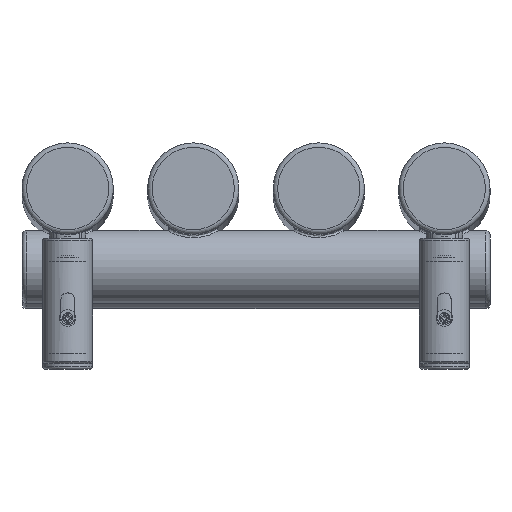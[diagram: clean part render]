
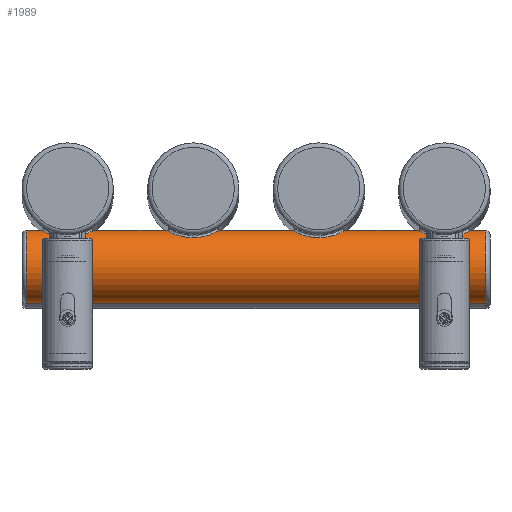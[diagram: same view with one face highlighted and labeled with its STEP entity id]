
A CAD part, top view. The second image highlights one B-rep face of the part: STEP entity #1989.
In plain terms, the highlighted cylindrical face has radius 16 mm (diameter 32 mm), a full revolution.
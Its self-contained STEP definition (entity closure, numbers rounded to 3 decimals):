
#170=FACE_BOUND('',#518,.T.);
#171=FACE_BOUND('',#519,.T.);
#172=FACE_BOUND('',#520,.T.);
#173=FACE_BOUND('',#521,.T.);
#193=LINE('',#4326,#266);
#266=VECTOR('',#2499,16.);
#339=CYLINDRICAL_SURFACE('',#2178,16.);
#374=FACE_OUTER_BOUND('',#517,.T.);
#517=EDGE_LOOP('',(#1425,#1426,#1427,#1428));
#518=EDGE_LOOP('',(#1429));
#519=EDGE_LOOP('',(#1430));
#520=EDGE_LOOP('',(#1431));
#521=EDGE_LOOP('',(#1432));
#668=B_SPLINE_CURVE_WITH_KNOTS('',3,(#4304,#4305,#4306,#4307,#4308,#4309,
#4310,#4311,#4312,#4313,#4314,#4315,#4316,#4317,#4318,#4319,#4320,#4321),
 .UNSPECIFIED.,.T.,.F.,(4,1,1,1,1,1,1,1,1,1,1,1,1,1,1,4),(0.,0.367,
0.733,1.1,1.466,1.955,2.199,
2.444,2.933,3.177,3.421,3.666,
3.91,4.399,4.765,5.132),
 .UNSPECIFIED.);
#669=B_SPLINE_CURVE_WITH_KNOTS('',3,(#4329,#4330,#4331,#4332,#4333,#4334,
#4335,#4336,#4337,#4338,#4339,#4340,#4341,#4342,#4343,#4344,#4345,#4346),
 .UNSPECIFIED.,.T.,.F.,(4,1,1,1,1,1,1,1,1,1,1,1,1,1,1,4),(0.,0.367,
0.733,1.1,1.466,1.955,2.199,
2.444,2.933,3.177,3.421,3.666,
3.91,4.399,4.765,5.132),
 .UNSPECIFIED.);
#670=B_SPLINE_CURVE_WITH_KNOTS('',3,(#4348,#4349,#4350,#4351,#4352,#4353,
#4354,#4355,#4356,#4357,#4358,#4359,#4360,#4361,#4362,#4363,#4364,#4365,
#4366,#4367,#4368,#4369,#4370,#4371,#4372),.UNSPECIFIED.,.T.,.F.,(4,1,1,
1,1,1,1,1,1,1,1,1,1,1,1,1,1,1,1,1,1,1,4),(0.,0.367,0.733,
1.1,1.283,1.466,1.711,1.955,
2.077,2.199,2.444,2.933,3.177,
3.421,3.666,3.788,3.91,4.154,
4.277,4.338,4.399,4.765,5.132),
 .UNSPECIFIED.);
#671=B_SPLINE_CURVE_WITH_KNOTS('',3,(#4374,#4375,#4376,#4377,#4378,#4379,
#4380,#4381,#4382,#4383,#4384,#4385,#4386,#4387,#4388,#4389,#4390,#4391),
 .UNSPECIFIED.,.T.,.F.,(4,1,1,1,1,1,1,1,1,1,1,1,1,1,1,4),(0.,0.367,
0.733,1.1,1.466,1.955,2.199,
2.444,2.933,3.177,3.421,3.666,
3.91,4.399,4.765,5.132),
 .UNSPECIFIED.);
#724=CIRCLE('',#2179,16.);
#725=CIRCLE('',#2180,16.);
#886=VERTEX_POINT('',#4302);
#887=VERTEX_POINT('',#4323);
#888=VERTEX_POINT('',#4325);
#889=VERTEX_POINT('',#4328);
#890=VERTEX_POINT('',#4347);
#891=VERTEX_POINT('',#4373);
#1102=EDGE_CURVE('',#886,#886,#668,.T.);
#1103=EDGE_CURVE('',#887,#887,#724,.T.);
#1104=EDGE_CURVE('',#887,#888,#193,.T.);
#1105=EDGE_CURVE('',#888,#888,#725,.T.);
#1106=EDGE_CURVE('',#889,#889,#669,.T.);
#1107=EDGE_CURVE('',#890,#890,#670,.T.);
#1108=EDGE_CURVE('',#891,#891,#671,.T.);
#1425=ORIENTED_EDGE('',*,*,#1103,.F.);
#1426=ORIENTED_EDGE('',*,*,#1104,.T.);
#1427=ORIENTED_EDGE('',*,*,#1105,.F.);
#1428=ORIENTED_EDGE('',*,*,#1104,.F.);
#1429=ORIENTED_EDGE('',*,*,#1106,.F.);
#1430=ORIENTED_EDGE('',*,*,#1107,.F.);
#1431=ORIENTED_EDGE('',*,*,#1108,.F.);
#1432=ORIENTED_EDGE('',*,*,#1102,.F.);
#1989=ADVANCED_FACE('',(#374,#170,#171,#172,#173),#339,.T.);
#2178=AXIS2_PLACEMENT_3D('',#4322,#2495,#2496);
#2179=AXIS2_PLACEMENT_3D('',#4324,#2497,#2498);
#2180=AXIS2_PLACEMENT_3D('',#4327,#2500,#2501);
#2495=DIRECTION('center_axis',(-1.,0.,0.));
#2496=DIRECTION('ref_axis',(0.,0.,1.));
#2497=DIRECTION('center_axis',(-1.,0.,0.));
#2498=DIRECTION('ref_axis',(0.,0.,1.));
#2499=DIRECTION('',(1.,0.,0.));
#2500=DIRECTION('center_axis',(1.,0.,0.));
#2501=DIRECTION('ref_axis',(0.,0.,1.));
#4302=CARTESIAN_POINT('',(-165.,-21.257,1454.676));
#4304=CARTESIAN_POINT('Ctrl Pts',(-165.,-21.257,1454.676));
#4305=CARTESIAN_POINT('Ctrl Pts',(-163.333,-21.257,1454.676));
#4306=CARTESIAN_POINT('Ctrl Pts',(-159.998,-20.862,1454.186));
#4307=CARTESIAN_POINT('Ctrl Pts',(-155.822,-19.32,1451.732));
#4308=CARTESIAN_POINT('Ctrl Pts',(-153.543,-17.947,1447.499));
#4309=CARTESIAN_POINT('Ctrl Pts',(-153.525,-17.943,1441.936));
#4310=CARTESIAN_POINT('Ctrl Pts',(-156.229,-19.554,1437.874));
#4311=CARTESIAN_POINT('Ctrl Pts',(-160.077,-20.767,1435.98));
#4312=CARTESIAN_POINT('Ctrl Pts',(-164.395,-21.458,1435.071));
#4313=CARTESIAN_POINT('Ctrl Pts',(-168.972,-21.079,1435.505));
#4314=CARTESIAN_POINT('Ctrl Pts',(-172.797,-19.859,1437.413));
#4315=CARTESIAN_POINT('Ctrl Pts',(-174.989,-18.831,1439.665));
#4316=CARTESIAN_POINT('Ctrl Pts',(-176.247,-18.084,1442.577));
#4317=CARTESIAN_POINT('Ctrl Pts',(-176.602,-17.836,1446.907));
#4318=CARTESIAN_POINT('Ctrl Pts',(-174.645,-19.134,1451.468));
#4319=CARTESIAN_POINT('Ctrl Pts',(-169.999,-20.872,1454.179));
#4320=CARTESIAN_POINT('Ctrl Pts',(-166.667,-21.257,1454.676));
#4321=CARTESIAN_POINT('Ctrl Pts',(-165.,-21.257,1454.676));
#4322=CARTESIAN_POINT('Origin',(20.,-34.,1445.));
#4323=CARTESIAN_POINT('',(-183.,-34.,1429.));
#4324=CARTESIAN_POINT('Origin',(-183.,-34.,1445.));
#4325=CARTESIAN_POINT('',(18.,-34.,1429.));
#4326=CARTESIAN_POINT('',(20.,-34.,1429.));
#4327=CARTESIAN_POINT('Origin',(18.,-34.,1445.));
#4328=CARTESIAN_POINT('',(-110.,-21.257,1454.676));
#4329=CARTESIAN_POINT('Ctrl Pts',(-110.,-21.257,1454.676));
#4330=CARTESIAN_POINT('Ctrl Pts',(-108.333,-21.257,1454.676));
#4331=CARTESIAN_POINT('Ctrl Pts',(-104.998,-20.862,1454.186));
#4332=CARTESIAN_POINT('Ctrl Pts',(-100.822,-19.32,1451.732));
#4333=CARTESIAN_POINT('Ctrl Pts',(-98.543,-17.947,1447.499));
#4334=CARTESIAN_POINT('Ctrl Pts',(-98.525,-17.943,1441.936));
#4335=CARTESIAN_POINT('Ctrl Pts',(-101.229,-19.554,1437.874));
#4336=CARTESIAN_POINT('Ctrl Pts',(-105.077,-20.767,1435.98));
#4337=CARTESIAN_POINT('Ctrl Pts',(-109.395,-21.458,1435.071));
#4338=CARTESIAN_POINT('Ctrl Pts',(-113.972,-21.079,1435.505));
#4339=CARTESIAN_POINT('Ctrl Pts',(-117.798,-19.859,1437.413));
#4340=CARTESIAN_POINT('Ctrl Pts',(-119.989,-18.831,1439.665));
#4341=CARTESIAN_POINT('Ctrl Pts',(-121.247,-18.084,1442.577));
#4342=CARTESIAN_POINT('Ctrl Pts',(-121.602,-17.836,1446.907));
#4343=CARTESIAN_POINT('Ctrl Pts',(-119.645,-19.134,1451.468));
#4344=CARTESIAN_POINT('Ctrl Pts',(-114.999,-20.872,1454.179));
#4345=CARTESIAN_POINT('Ctrl Pts',(-111.667,-21.257,1454.676));
#4346=CARTESIAN_POINT('Ctrl Pts',(-110.,-21.257,1454.676));
#4347=CARTESIAN_POINT('',(0.,-21.257,1454.676));
#4348=CARTESIAN_POINT('Ctrl Pts',(0.,-21.257,
1454.676));
#4349=CARTESIAN_POINT('Ctrl Pts',(1.667,-21.257,1454.676));
#4350=CARTESIAN_POINT('Ctrl Pts',(5.005,-20.862,1454.184));
#4351=CARTESIAN_POINT('Ctrl Pts',(9.172,-19.323,1451.732));
#4352=CARTESIAN_POINT('Ctrl Pts',(11.085,-18.177,1448.197));
#4353=CARTESIAN_POINT('Ctrl Pts',(11.461,-17.94,1445.));
#4354=CARTESIAN_POINT('Ctrl Pts',(11.146,-18.139,1442.337));
#4355=CARTESIAN_POINT('Ctrl Pts',(9.987,-18.832,1439.662));
#4356=CARTESIAN_POINT('Ctrl Pts',(8.162,-19.688,1437.79));
#4357=CARTESIAN_POINT('Ctrl Pts',(6.363,-20.315,1436.696));
#4358=CARTESIAN_POINT('Ctrl Pts',(4.387,-20.85,1435.862));
#4359=CARTESIAN_POINT('Ctrl Pts',(0.602,-21.46,1435.076));
#4360=CARTESIAN_POINT('Ctrl Pts',(-3.97,-21.079,1435.503));
#4361=CARTESIAN_POINT('Ctrl Pts',(-7.799,-19.86,1437.414));
#4362=CARTESIAN_POINT('Ctrl Pts',(-9.986,-18.833,1439.665));
#4363=CARTESIAN_POINT('Ctrl Pts',(-11.04,-18.204,1442.095));
#4364=CARTESIAN_POINT('Ctrl Pts',(-11.377,-17.994,1444.199));
#4365=CARTESIAN_POINT('Ctrl Pts',(-11.378,-17.993,1446.338));
#4366=CARTESIAN_POINT('Ctrl Pts',(-10.87,-18.315,1448.423));
#4367=CARTESIAN_POINT('Ctrl Pts',(-9.996,-18.797,1450.026));
#4368=CARTESIAN_POINT('Ctrl Pts',(-9.382,-19.106,1450.86));
#4369=CARTESIAN_POINT('Ctrl Pts',(-8.011,-19.754,1452.412));
#4370=CARTESIAN_POINT('Ctrl Pts',(-5.007,-20.856,1454.184));
#4371=CARTESIAN_POINT('Ctrl Pts',(-1.667,-21.257,1454.676));
#4372=CARTESIAN_POINT('Ctrl Pts',(0.,-21.257,
1454.676));
#4373=CARTESIAN_POINT('',(-55.,-21.257,1454.676));
#4374=CARTESIAN_POINT('Ctrl Pts',(-55.,-21.257,1454.676));
#4375=CARTESIAN_POINT('Ctrl Pts',(-53.333,-21.257,1454.676));
#4376=CARTESIAN_POINT('Ctrl Pts',(-49.998,-20.862,1454.186));
#4377=CARTESIAN_POINT('Ctrl Pts',(-45.822,-19.32,1451.732));
#4378=CARTESIAN_POINT('Ctrl Pts',(-43.543,-17.947,1447.499));
#4379=CARTESIAN_POINT('Ctrl Pts',(-43.525,-17.943,1441.936));
#4380=CARTESIAN_POINT('Ctrl Pts',(-46.229,-19.554,1437.874));
#4381=CARTESIAN_POINT('Ctrl Pts',(-50.077,-20.767,1435.98));
#4382=CARTESIAN_POINT('Ctrl Pts',(-54.395,-21.458,1435.071));
#4383=CARTESIAN_POINT('Ctrl Pts',(-58.972,-21.079,1435.505));
#4384=CARTESIAN_POINT('Ctrl Pts',(-62.798,-19.859,1437.413));
#4385=CARTESIAN_POINT('Ctrl Pts',(-64.989,-18.831,1439.665));
#4386=CARTESIAN_POINT('Ctrl Pts',(-66.247,-18.084,1442.577));
#4387=CARTESIAN_POINT('Ctrl Pts',(-66.602,-17.836,1446.907));
#4388=CARTESIAN_POINT('Ctrl Pts',(-64.645,-19.134,1451.468));
#4389=CARTESIAN_POINT('Ctrl Pts',(-59.999,-20.872,1454.179));
#4390=CARTESIAN_POINT('Ctrl Pts',(-56.667,-21.257,1454.676));
#4391=CARTESIAN_POINT('Ctrl Pts',(-55.,-21.257,1454.676));
